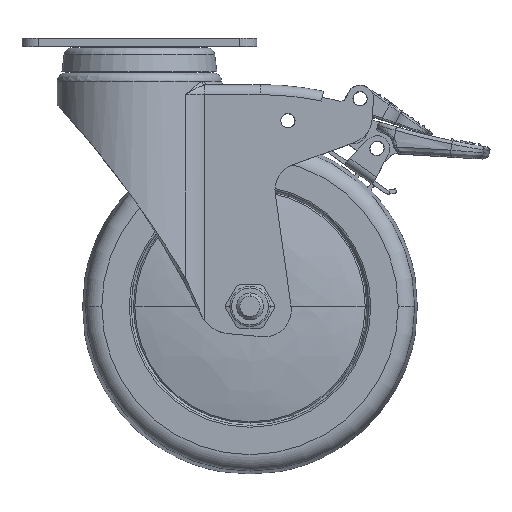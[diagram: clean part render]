
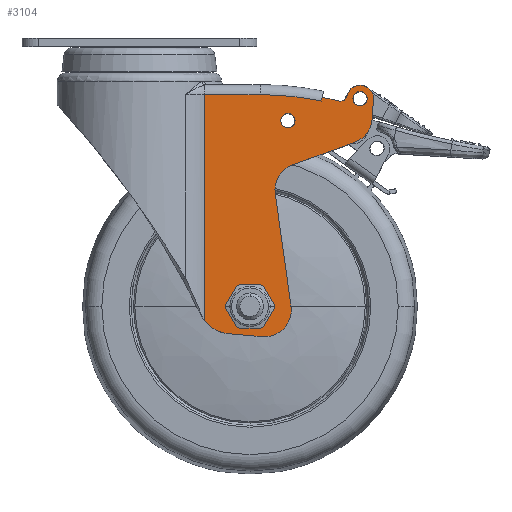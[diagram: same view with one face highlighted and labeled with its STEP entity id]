
A CAD part, top view. The second image highlights one B-rep face of the part: STEP entity #3104.
In plain terms, the highlighted planar face has unit normal (0, 0, 1).
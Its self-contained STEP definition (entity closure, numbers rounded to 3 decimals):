
#321=CARTESIAN_POINT('',(19.438,-73.916,18.5));
#585=CARTESIAN_POINT('',(27.35,-67.801,18.5));
#586=DIRECTION('',(0.,0.,1.));
#587=DIRECTION('',(-0.791,-0.612,0.));
#588=AXIS2_PLACEMENT_3D('',#585,#586,#587);
#1045=DIRECTION('',(0.,-1.,0.));
#1046=VECTOR('',#1045,67.416);
#1047=CARTESIAN_POINT('',(19.438,-6.5,18.5));
#1048=LINE('',#1047,#1046);
#1049=DIRECTION('',(-1.,0.,0.));
#1050=VECTOR('',#1049,16.562);
#1051=CARTESIAN_POINT('',(36.,-6.5,18.5));
#1052=LINE('',#1051,#1050);
#1053=CARTESIAN_POINT('',(36.,-95.5,18.5));
#1054=DIRECTION('',(0.,0.,1.));
#1055=DIRECTION('',(0.205,0.979,0.));
#1056=AXIS2_PLACEMENT_3D('',#1053,#1054,#1055);
#1058=DIRECTION('',(0.208,0.978,0.));
#1059=VECTOR('',#1058,1.107);
#1060=CARTESIAN_POINT('',(54.264,-8.394,18.5));
#1061=LINE('',#1060,#1059);
#1062=CARTESIAN_POINT('',(35.385,-107.122,18.5));
#1063=DIRECTION('',(0.,0.,1.));
#1064=DIRECTION('',(0.237,0.972,0.));
#1065=AXIS2_PLACEMENT_3D('',#1062,#1063,#1064);
#1067=CARTESIAN_POINT('',(59.923,-6.445,18.5));
#1068=DIRECTION('',(0.,0.,-1.));
#1069=DIRECTION('',(0.951,-0.309,0.));
#1070=AXIS2_PLACEMENT_3D('',#1067,#1068,#1069);
#1072=DIRECTION('',(-0.309,-0.951,0.));
#1073=VECTOR('',#1072,0.394);
#1074=CARTESIAN_POINT('',(61.946,-6.688,18.5));
#1075=LINE('',#1074,#1073);
#1076=CARTESIAN_POINT('',(65.813,-7.713,18.5));
#1077=DIRECTION('',(0.,0.,1.));
#1078=DIRECTION('',(0.998,-0.07,0.));
#1079=AXIS2_PLACEMENT_3D('',#1076,#1077,#1078);
#1081=DIRECTION('',(0.07,0.998,0.));
#1082=VECTOR('',#1081,5.784);
#1083=CARTESIAN_POINT('',(69.4,-13.761,18.5));
#1084=LINE('',#1083,#1082);
#1085=CARTESIAN_POINT('',(61.419,-13.203,18.5));
#1086=DIRECTION('',(0.,0.,1.));
#1087=DIRECTION('',(0.342,-0.94,0.));
#1088=AXIS2_PLACEMENT_3D('',#1085,#1086,#1087);
#1090=DIRECTION('',(0.94,0.342,0.));
#1091=VECTOR('',#1090,19.659);
#1092=CARTESIAN_POINT('',(45.682,-27.445,18.5));
#1093=LINE('',#1092,#1091);
#1094=CARTESIAN_POINT('',(48.418,-34.962,18.5));
#1095=DIRECTION('',(0.,0.,-1.));
#1096=DIRECTION('',(-0.99,-0.139,0.));
#1097=AXIS2_PLACEMENT_3D('',#1094,#1095,#1096);
#1099=DIRECTION('',(-0.139,0.99,0.));
#1100=VECTOR('',#1099,33.162);
#1101=CARTESIAN_POINT('',(45.111,-68.915,18.5));
#1102=LINE('',#1101,#1100);
#1103=CARTESIAN_POINT('',(37.308,-70.68,18.5));
#1104=DIRECTION('',(0.,0.,1.));
#1105=DIRECTION('',(-0.087,-0.996,0.));
#1106=AXIS2_PLACEMENT_3D('',#1103,#1104,#1105);
#1108=DIRECTION('',(0.996,-0.087,0.));
#1109=VECTOR('',#1108,10.171);
#1110=CARTESIAN_POINT('',(26.479,-77.763,18.5));
#1111=LINE('',#1110,#1109);
#1112=CARTESIAN_POINT('',(65.813,-7.713,18.5));
#1113=DIRECTION('',(0.,0.,1.));
#1114=DIRECTION('',(1.,0.,0.));
#1115=AXIS2_PLACEMENT_3D('',#1112,#1113,#1114);
#1117=CARTESIAN_POINT('',(65.813,-7.713,18.5));
#1118=DIRECTION('',(0.,0.,1.));
#1119=DIRECTION('',(-1.,0.,0.));
#1120=AXIS2_PLACEMENT_3D('',#1117,#1118,#1119);
#1122=CARTESIAN_POINT('',(44.284,-14.25,18.5));
#1123=DIRECTION('',(0.,0.,1.));
#1124=DIRECTION('',(1.,0.,0.));
#1125=AXIS2_PLACEMENT_3D('',#1122,#1123,#1124);
#1127=CARTESIAN_POINT('',(44.284,-14.25,18.5));
#1128=DIRECTION('',(0.,0.,1.));
#1129=DIRECTION('',(-1.,0.,0.));
#1130=AXIS2_PLACEMENT_3D('',#1127,#1128,#1129);
#1132=CARTESIAN_POINT('',(32.984,-69.65,18.5));
#1133=DIRECTION('',(0.,0.,1.));
#1134=DIRECTION('',(1.,0.,0.));
#1135=AXIS2_PLACEMENT_3D('',#1132,#1133,#1134);
#1137=CARTESIAN_POINT('',(32.984,-69.65,18.5));
#1138=DIRECTION('',(0.,0.,1.));
#1139=DIRECTION('',(-1.,0.,0.));
#1140=AXIS2_PLACEMENT_3D('',#1137,#1138,#1139);
#1243=CARTESIAN_POINT('',(36.611,-78.649,18.5));
#1244=CARTESIAN_POINT('',(45.111,-68.915,18.5));
#1245=VERTEX_POINT('',#1243);
#1246=VERTEX_POINT('',#1244);
#1247=CARTESIAN_POINT('',(40.496,-36.076,18.5));
#1248=VERTEX_POINT('',#1247);
#1249=CARTESIAN_POINT('',(45.682,-27.445,18.5));
#1250=VERTEX_POINT('',#1249);
#1251=CARTESIAN_POINT('',(64.156,-20.721,18.5));
#1252=VERTEX_POINT('',#1251);
#1253=CARTESIAN_POINT('',(69.4,-13.761,18.5));
#1254=VERTEX_POINT('',#1253);
#1255=CARTESIAN_POINT('',(69.803,-7.992,18.5));
#1256=VERTEX_POINT('',#1255);
#1257=CARTESIAN_POINT('',(61.946,-6.688,18.5));
#1258=VERTEX_POINT('',#1257);
#1259=CARTESIAN_POINT('',(61.825,-7.063,18.5));
#1260=VERTEX_POINT('',#1259);
#1261=CARTESIAN_POINT('',(59.449,-8.388,18.5));
#1262=VERTEX_POINT('',#1261);
#1321=CARTESIAN_POINT('',(36.,-6.5,18.5));
#1322=CARTESIAN_POINT('',(19.438,-6.5,18.5));
#1323=VERTEX_POINT('',#1321);
#1324=VERTEX_POINT('',#1322);
#1327=CARTESIAN_POINT('',(54.264,-8.394,18.5));
#1328=VERTEX_POINT('',#1327);
#1331=CARTESIAN_POINT('',(54.494,-7.311,18.5));
#1332=VERTEX_POINT('',#1331);
#1407=CARTESIAN_POINT('',(26.479,-77.763,18.5));
#1409=VERTEX_POINT('',#1407);
#1414=VERTEX_POINT('',#321);
#1436=CARTESIAN_POINT('',(67.963,-7.713,18.5));
#1437=CARTESIAN_POINT('',(63.663,-7.713,18.5));
#1438=VERTEX_POINT('',#1436);
#1439=VERTEX_POINT('',#1437);
#1440=CARTESIAN_POINT('',(46.434,-14.25,18.5));
#1441=CARTESIAN_POINT('',(42.134,-14.25,18.5));
#1442=VERTEX_POINT('',#1440);
#1443=VERTEX_POINT('',#1441);
#1444=CARTESIAN_POINT('',(36.984,-69.65,18.5));
#1445=CARTESIAN_POINT('',(28.984,-69.65,18.5));
#1446=VERTEX_POINT('',#1444);
#1447=VERTEX_POINT('',#1445);
#3063=CARTESIAN_POINT('',(0.,0.,18.5));
#3064=DIRECTION('',(0.,0.,1.));
#3065=DIRECTION('',(1.,0.,0.));
#3066=AXIS2_PLACEMENT_3D('',#3063,#3064,#3065);
#3067=PLANE('',#3066);
#3068=ORIENTED_EDGE('',*,*,#2472,.F.);
#3069=ORIENTED_EDGE('',*,*,#1930,.F.);
#3070=ORIENTED_EDGE('',*,*,#2050,.F.);
#3072=ORIENTED_EDGE('',*,*,#3071,.F.);
#3074=ORIENTED_EDGE('',*,*,#3073,.T.);
#3075=ORIENTED_EDGE('',*,*,#2837,.F.);
#3076=ORIENTED_EDGE('',*,*,#2807,.F.);
#3077=ORIENTED_EDGE('',*,*,#2779,.F.);
#3078=ORIENTED_EDGE('',*,*,#2751,.F.);
#3079=ORIENTED_EDGE('',*,*,#2723,.F.);
#3080=ORIENTED_EDGE('',*,*,#2695,.F.);
#3081=ORIENTED_EDGE('',*,*,#2667,.F.);
#3082=ORIENTED_EDGE('',*,*,#2639,.F.);
#3083=ORIENTED_EDGE('',*,*,#2611,.F.);
#3084=ORIENTED_EDGE('',*,*,#2583,.F.);
#3085=ORIENTED_EDGE('',*,*,#2553,.F.);
#3086=EDGE_LOOP('',(#3068,#3069,#3070,#3072,#3074,#3075,#3076,#3077,#3078,#3079,
#3080,#3081,#3082,#3083,#3084,#3085));
#3087=FACE_OUTER_BOUND('',#3086,.F.);
#3088=ORIENTED_EDGE('',*,*,#3028,.T.);
#3089=ORIENTED_EDGE('',*,*,#3055,.T.);
#3090=EDGE_LOOP('',(#3088,#3089));
#3091=FACE_BOUND('',#3090,.F.);
#3093=ORIENTED_EDGE('',*,*,#3092,.T.);
#3095=ORIENTED_EDGE('',*,*,#3094,.T.);
#3096=EDGE_LOOP('',(#3093,#3095));
#3097=FACE_BOUND('',#3096,.F.);
#3099=ORIENTED_EDGE('',*,*,#3098,.T.);
#3101=ORIENTED_EDGE('',*,*,#3100,.T.);
#3102=EDGE_LOOP('',(#3099,#3101));
#3103=FACE_BOUND('',#3102,.F.);
#589=CIRCLE('',#588,10.);
#1057=CIRCLE('',#1056,89.);
#1066=CIRCLE('',#1065,101.624);
#1071=CIRCLE('',#1070,2.);
#1080=CIRCLE('',#1079,4.);
#1089=CIRCLE('',#1088,8.);
#1098=CIRCLE('',#1097,8.);
#1107=CIRCLE('',#1106,8.);
#1116=CIRCLE('',#1115,2.15);
#1121=CIRCLE('',#1120,2.15);
#1126=CIRCLE('',#1125,2.15);
#1131=CIRCLE('',#1130,2.15);
#1136=CIRCLE('',#1135,4.);
#1141=CIRCLE('',#1140,4.);
#1930=EDGE_CURVE('',#1324,#1414,#1048,.T.);
#2050=EDGE_CURVE('',#1323,#1324,#1052,.T.);
#2472=EDGE_CURVE('',#1414,#1409,#589,.T.);
#2553=EDGE_CURVE('',#1409,#1245,#1111,.T.);
#2583=EDGE_CURVE('',#1245,#1246,#1107,.T.);
#2611=EDGE_CURVE('',#1246,#1248,#1102,.T.);
#2639=EDGE_CURVE('',#1248,#1250,#1098,.T.);
#2667=EDGE_CURVE('',#1250,#1252,#1093,.T.);
#2695=EDGE_CURVE('',#1252,#1254,#1089,.T.);
#2723=EDGE_CURVE('',#1254,#1256,#1084,.T.);
#2751=EDGE_CURVE('',#1256,#1258,#1080,.T.);
#2779=EDGE_CURVE('',#1258,#1260,#1075,.T.);
#2807=EDGE_CURVE('',#1260,#1262,#1071,.T.);
#2837=EDGE_CURVE('',#1262,#1332,#1066,.T.);
#3028=EDGE_CURVE('',#1438,#1439,#1116,.T.);
#3055=EDGE_CURVE('',#1439,#1438,#1121,.T.);
#3071=EDGE_CURVE('',#1328,#1323,#1057,.T.);
#3073=EDGE_CURVE('',#1328,#1332,#1061,.T.);
#3092=EDGE_CURVE('',#1442,#1443,#1126,.T.);
#3094=EDGE_CURVE('',#1443,#1442,#1131,.T.);
#3098=EDGE_CURVE('',#1446,#1447,#1136,.T.);
#3100=EDGE_CURVE('',#1447,#1446,#1141,.T.);
#3104=ADVANCED_FACE('',(#3087,#3091,#3097,#3103),#3067,.T.);
